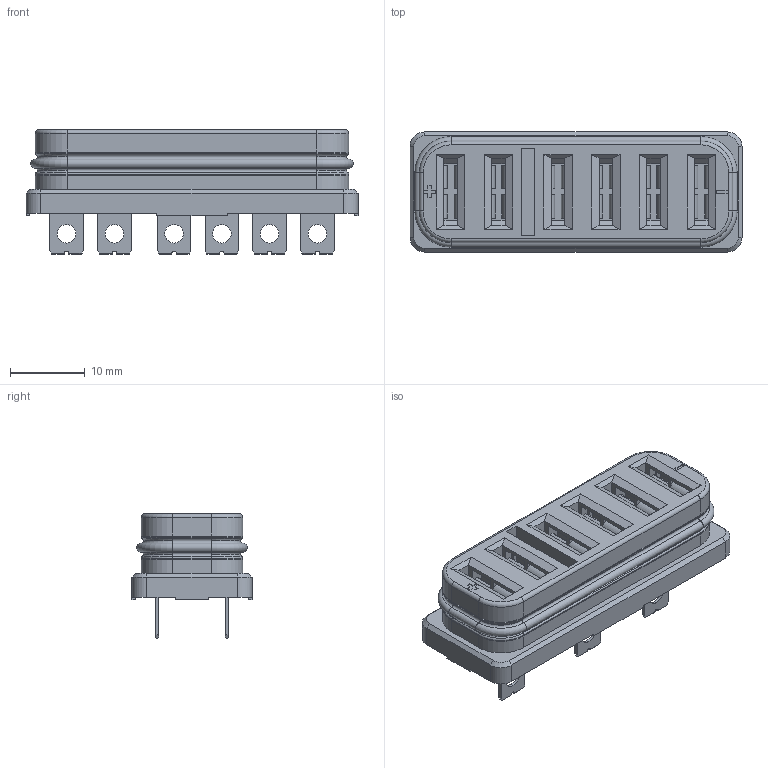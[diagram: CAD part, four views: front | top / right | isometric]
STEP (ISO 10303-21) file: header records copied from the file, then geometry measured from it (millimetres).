
FILE_DESCRIPTION((''),'2;1');
FILE_NAME('304B-6406SG1_ASM','2026-07-23T',('fros.liao'),(''),'CREO PARAMETRIC BY PTC INC, 2018360','CREO PARAMETRIC BY PTC INC, 2018360','');
FILE_SCHEMA(('CONFIG_CONTROL_DESIGN'));
Length unit declared in the file: millimetre
Products named in the file (6): T1-6P-4P9S-FEMALE_8; T5-SN0017-2000X_1; T2-4P9S-6P_2; 0-RING_1; 6P-4P9S_FEMALE_BT_ASM_7_ASM; 304B-6406SG1_ASM
Assembly tree (10 placements, depth 3):
  304B-6406SG1_ASM
    6P-4P9S_FEMALE_BT_ASM_7_ASM
      T1-6P-4P9S-FEMALE_8
      T5-SN0017-2000X_1  x6
      T2-4P9S-6P_2
      0-RING_1
Bounding box: 44.5 x 16.1 x 16.7 mm (x, y, z)
Volume: 4120.7 mm3; surface area: 9185.3 mm2
Topology: 9 solids, 11 shells, 1310 faces, 3606 edges, 2328 vertices
Faces by surface type: plane 884, cylinder 378, torus 32, cone 16
Entity records: 23117 total; most frequent: CARTESIAN_POINT 4084, ORIENTED_EDGE 3982, DIRECTION 3841, EDGE_CURVE 1991, VECTOR 1665, LINE 1665, VERTEX_POINT 1268, AXIS2_PLACEMENT_3D 1088
